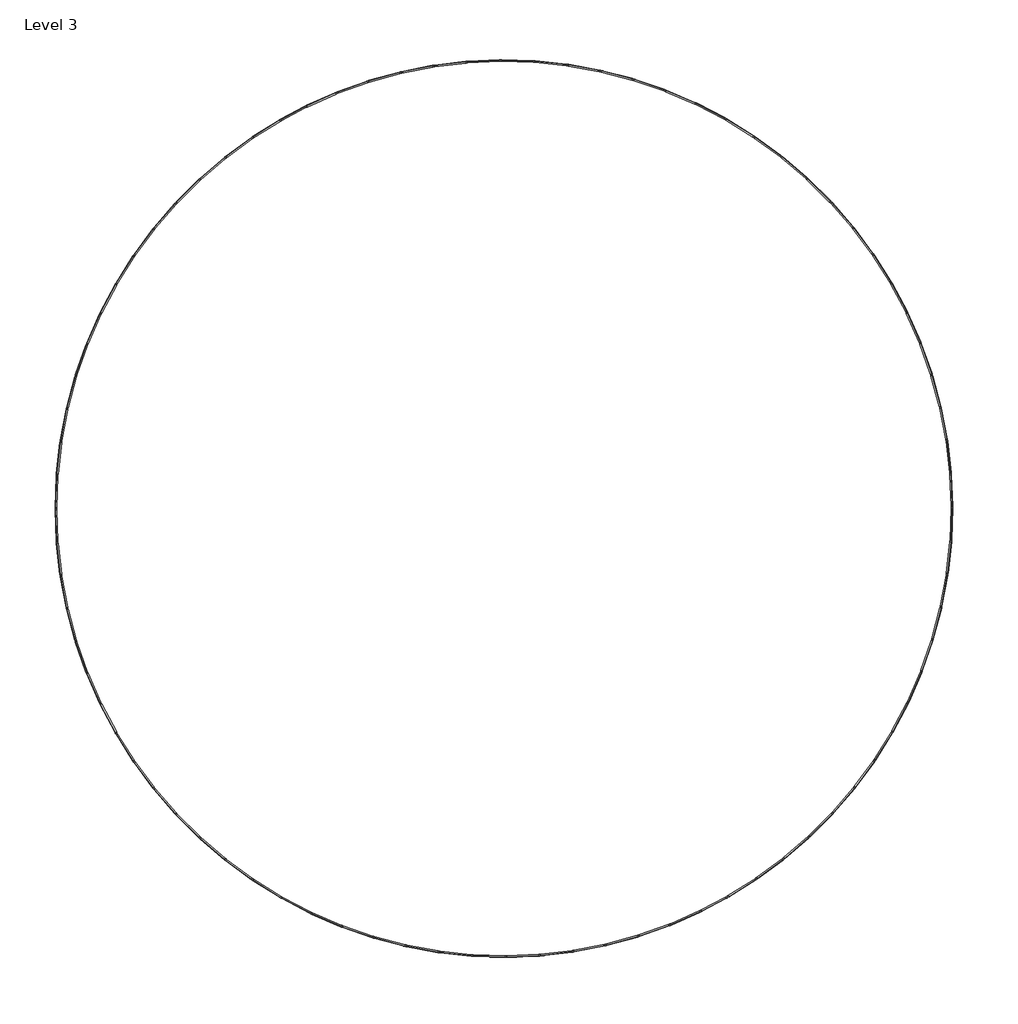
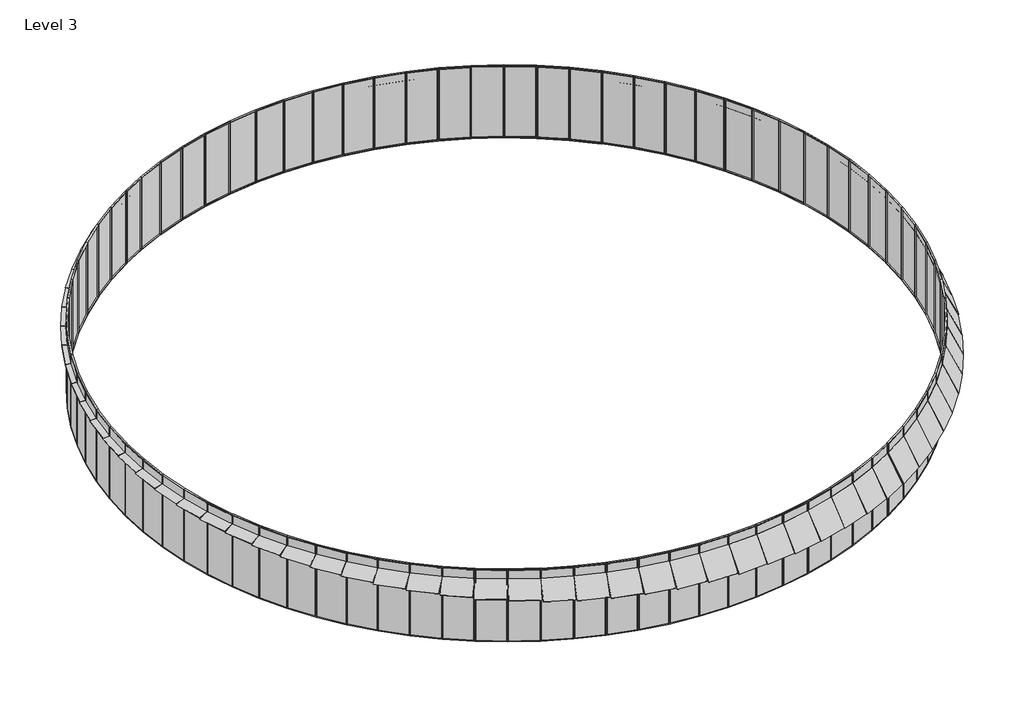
# One storey: 84 plates.
"""IFC4 building model written with IfcOpenShell, lengths in millimetres."""

from ifc_helpers import new_model, si_unit, origin, place, context, project, spatial, transform, mapped, element, save
from components import typical_panel_typical_panel_1dacabfa, typical_panel_typical_panel_de002282, typical_panel_typical_panel_c068772c, typical_panel_typical_panel_b4f8cd0d, typical_panel_typical_panel_24d31985, typical_panel_typical_panel_bf64ccab, typical_panel_typical_panel_7269d920, typical_panel_typical_panel_007911d2, typical_panel_typical_panel_4d8c99ed, typical_panel_typical_panel_fa7228e3, typical_panel_typical_panel_21f6f527, typical_panel_typical_panel_994178b1, typical_panel_typical_panel_321f3c24, typical_panel_typical_panel_c4bb10ae, typical_panel_typical_panel_636d6651, typical_panel_typical_panel_3eeb6f99, typical_panel_typical_panel_555c9846, typical_panel_typical_panel_89c6637b, typical_panel_typical_panel_d72680d6, typical_panel_typical_panel_a65719b3, typical_panel_typical_panel_fb959741, typical_panel_typical_panel_bf9a72a6, typical_panel_typical_panel_530a7cf6, typical_panel_typical_panel_7dcf532a, typical_panel_typical_panel_a58b40de, typical_panel_typical_panel_9cbe78d2, typical_panel_typical_panel_3d8b9d05, typical_panel_typical_panel_1fc3b25d, typical_panel_typical_panel_199775df, typical_panel_typical_panel_5af8f8b4, typical_panel_typical_panel_452a3de3, typical_panel_typical_panel_9333b02c, typical_panel_typical_panel_dc0afd6a, typical_panel_typical_panel_484bad6c, typical_panel_typical_panel_78da2cf4, typical_panel_typical_panel_ad1c7da8, typical_panel_typical_panel_823978b0, typical_panel_typical_panel_4a132dac, typical_panel_typical_panel_328596d2, typical_panel_typical_panel_e094c6e8, typical_panel_typical_panel_4f07c011, typical_panel_typical_panel_1149305a, typical_panel_typical_panel_529db082, typical_panel_typical_panel_4d45919f, typical_panel_typical_panel_7d76078b, typical_panel_typical_panel_77cb67d9, typical_panel_typical_panel_1d00d27b, typical_panel_typical_panel_c6367479, typical_panel_typical_panel_41a3be12, typical_panel_typical_panel_ce5b174f, typical_panel_typical_panel_92cceb4c, typical_panel_typical_panel_8b2101b3, typical_panel_typical_panel_25451a31, typical_panel_typical_panel_bbcebb09, typical_panel_typical_panel_16c89cbd, typical_panel_typical_panel_3222c149, typical_panel_typical_panel_2061968d, typical_panel_typical_panel_abac9c48, typical_panel_typical_panel_9d5c9c45, typical_panel_typical_panel_519964b2, typical_panel_typical_panel_5b56934d, typical_panel_typical_panel_f5345e9d, typical_panel_typical_panel_8e1d2641, typical_panel_typical_panel_2c4e3443, typical_panel_typical_panel_8a0cca83, typical_panel_typical_panel_c9221e3d, typical_panel_typical_panel_9318e441, typical_panel_typical_panel_39513247, typical_panel_typical_panel_b0a5b154, typical_panel_typical_panel_c39826dc

model = new_model("IFC4")

# Units and contexts
model_context = context("Model", 3, world=origin())
ifc_project = project(units=[si_unit("LENGTHUNIT", "METRE", prefix="MILLI")], contexts=[model_context])

# Site, building, storey
site = spatial("IfcSite", under=ifc_project)
building = spatial("IfcBuilding", under=site)
storey = spatial("IfcBuildingStorey", under=building, Name="Level 3", Elevation=8000.0)

# Plates
placement = place(None, origin())
typical_panel_typical_panel_shape = typical_panel_typical_panel_1dacabfa(model_context)
element("IfcPlate", 1, ObjectType="Typical Panel : Typical Panel", at=placement, inside=storey, context=model_context, shape_type="MappedRepresentation", body=[
    mapped(typical_panel_typical_panel_shape, transform((19852.5990247, 2304.7368536, 8000.0), x_axis=(-0.115317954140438, 0.9933286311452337, 0.0), y_axis=(-0.9933286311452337, -0.115317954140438, 0.0), z_axis=(0.0, 0.0, 1.0))),
])
typical_panel_typical_panel_2_shape = typical_panel_typical_panel_de002282(model_context)
element("IfcPlate", 2, ObjectType="Typical Panel : Typical Panel", at=placement, inside=storey, context=model_context, shape_type="MappedRepresentation", body=[
    mapped(typical_panel_typical_panel_2_shape, transform((19624.0299075, 3786.1524253, 8000.0), x_axis=(-0.18944086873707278, 0.9818921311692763, 0.0), y_axis=(-0.9818921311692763, -0.18944086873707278, 0.0), z_axis=(0.0, 0.0, 1.0))),
])
element("IfcPlate", 3, ObjectType="Typical Panel : Typical Panel", at=placement, inside=storey, context=model_context, shape_type="MappedRepresentation", body=[
    mapped(typical_panel_typical_panel_2_shape, transform((5275.71905, -19277.0404499, 8000.0), x_axis=(0.9645304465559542, 0.2639716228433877, 0.0), y_axis=(-0.2639716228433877, 0.9645304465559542, 0.0), z_axis=(0.0, 0.0, 1.0))),
])
typical_panel_typical_panel_3_shape = typical_panel_typical_panel_c068772c(model_context)
element("IfcPlate", 4, ObjectType="Typical Panel : Typical Panel", at=placement, inside=storey, context=model_context, shape_type="MappedRepresentation", body=[
    mapped(typical_panel_typical_panel_3_shape, transform((19285.0756222, 5246.2708896, 8000.0), x_axis=(-0.2624981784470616, 0.9649324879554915, 0.0), y_axis=(-0.9649324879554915, -0.2624981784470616, 0.0), z_axis=(0.0, 0.0, 1.0))),
])
typical_panel_typical_panel_4_shape = typical_panel_typical_panel_b4f8cd0d(model_context)
element("IfcPlate", 5, ObjectType="Typical Panel : Typical Panel", at=placement, inside=storey, context=model_context, shape_type="MappedRepresentation", body=[
    mapped(typical_panel_typical_panel_4_shape, transform((18837.6427864, 6676.8790802, 8000.0), x_axis=(-0.3340789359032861, 0.9425450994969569, 0.0), y_axis=(-0.9425450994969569, -0.3340789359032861, 0.0), z_axis=(0.0, 0.0, 1.0))),
])
typical_panel_typical_panel_5_shape = typical_panel_typical_panel_24d31985(model_context)
element("IfcPlate", 6, ObjectType="Typical Panel : Typical Panel", at=placement, inside=storey, context=model_context, shape_type="MappedRepresentation", body=[
    mapped(typical_panel_typical_panel_5_shape, transform((18284.24821, 8069.929826, 8000.0), x_axis=(-0.40378049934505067, 0.9148558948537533, 0.0), y_axis=(-0.9148558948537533, -0.40378049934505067, 0.0), z_axis=(0.0, 0.0, 1.0))),
])
typical_panel_typical_panel_6_shape = typical_panel_typical_panel_bf64ccab(model_context)
element("IfcPlate", 7, ObjectType="Typical Panel : Typical Panel", at=placement, inside=storey, context=model_context, shape_type="MappedRepresentation", body=[
    mapped(typical_panel_typical_panel_6_shape, transform((17628.0047373, 9417.5872165, 8000.0), x_axis=(-0.4712107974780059, 0.8820206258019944, 0.0), y_axis=(-0.8820206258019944, -0.4712107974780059, 0.0), z_axis=(0.0, 0.0, 1.0))),
])
typical_panel_typical_panel_7_shape = typical_panel_typical_panel_7269d920(model_context)
element("IfcPlate", 8, ObjectType="Typical Panel : Typical Panel", at=placement, inside=storey, context=model_context, shape_type="MappedRepresentation", body=[
    mapped(typical_panel_typical_panel_7_shape, transform((16872.6037381, 10712.2706789, 8000.0), x_axis=(-0.5359905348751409, 0.8442239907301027, 0.0), y_axis=(-0.8442239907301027, -0.5359905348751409, 0.0), z_axis=(0.0, 0.0, 1.0))),
])
typical_panel_typical_panel_8_shape = typical_panel_typical_panel_007911d2(model_context)
element("IfcPlate", 9, ObjectType="Typical Panel : Typical Panel", at=placement, inside=storey, context=model_context, shape_type="MappedRepresentation", body=[
    mapped(typical_panel_typical_panel_8_shape, transform((16022.2943428, 11946.6976187, 8000.0), x_axis=(-0.5977553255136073, 0.8016785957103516, 0.0), y_axis=(-0.8016785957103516, -0.5977553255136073, 0.0), z_axis=(0.0, 0.0, 1.0))),
])
typical_panel_typical_panel_9_shape = typical_panel_typical_panel_4d8c99ed(model_context)
element("IfcPlate", 10, ObjectType="Typical Panel : Typical Panel", at=placement, inside=storey, context=model_context, shape_type="MappedRepresentation", body=[
    mapped(typical_panel_typical_panel_9_shape, transform((14056.5892809, 14207.3853255, 8000.0), x_axis=(-0.7108692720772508, 0.7033241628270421, 0.0), y_axis=(-0.7033241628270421, -0.7108692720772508, 0.0), z_axis=(0.0, 0.0, 1.0))),
])
typical_panel_typical_panel_10_shape = typical_panel_typical_panel_fa7228e3(model_context)
element("IfcPlate", 11, ObjectType="Typical Panel : Typical Panel", at=placement, inside=storey, context=model_context, shape_type="MappedRepresentation", body=[
    mapped(typical_panel_typical_panel_10_shape, transform((11775.0557195, 16148.856393, 8000.0), x_axis=(-0.8080111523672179, 0.5891671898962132, 0.0), y_axis=(-0.5891671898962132, -0.8080111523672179, 0.0), z_axis=(0.0, 0.0, 1.0))),
])
typical_panel_typical_panel_11_shape = typical_panel_typical_panel_21f6f527(model_context)
element("IfcPlate", 12, ObjectType="Typical Panel : Typical Panel", at=placement, inside=storey, context=model_context, shape_type="MappedRepresentation", body=[
    mapped(typical_panel_typical_panel_11_shape, transform((10531.6260453, 16985.9457447, 8000.0), x_axis=(-0.8498950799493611, 0.5269519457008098, 0.0), y_axis=(-0.5269519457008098, -0.8498950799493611, 0.0), z_axis=(0.0, 0.0, 1.0))),
])
typical_panel_typical_panel_12_shape = typical_panel_typical_panel_994178b1(model_context)
element("IfcPlate", 13, ObjectType="Typical Panel : Typical Panel", at=placement, inside=storey, context=model_context, shape_type="MappedRepresentation", body=[
    mapped(typical_panel_typical_panel_12_shape, transform((7874.3730264, 18369.315432, 8000.0), x_axis=(-0.9191122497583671, 0.39399577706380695, 0.0), y_axis=(-0.39399577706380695, -0.9191122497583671, 0.0), z_axis=(0.0, 0.0, 1.0))),
])
typical_panel_typical_panel_13_shape = typical_panel_typical_panel_321f3c24(model_context)
element("IfcPlate", 14, ObjectType="Typical Panel : Typical Panel", at=placement, inside=storey, context=model_context, shape_type="MappedRepresentation", body=[
    mapped(typical_panel_typical_panel_13_shape, transform((6475.4967301, 18907.8143131, 8000.0), x_axis=(-0.9460561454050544, 0.32400273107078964, 0.0), y_axis=(-0.32400273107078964, -0.9460561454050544, 0.0), z_axis=(0.0, 0.0, 1.0))),
])
typical_panel_typical_panel_14_shape = typical_panel_typical_panel_c4bb10ae(model_context)
element("IfcPlate", 15, ObjectType="Typical Panel : Typical Panel", at=placement, inside=storey, context=model_context, shape_type="MappedRepresentation", body=[
    mapped(typical_panel_typical_panel_14_shape, transform((5040.1957646, 19339.9567387, 8000.0), x_axis=(-0.967678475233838, 0.25218716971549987, 0.0), y_axis=(-0.25218716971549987, -0.967678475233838, 0.0), z_axis=(0.0, 0.0, 1.0))),
])
typical_panel_typical_panel_15_shape = typical_panel_typical_panel_636d6651(model_context)
element("IfcPlate", 16, ObjectType="Typical Panel : Typical Panel", at=placement, inside=storey, context=model_context, shape_type="MappedRepresentation", body=[
    mapped(typical_panel_typical_panel_15_shape, transform((3576.5436979, 19663.3119076, 8000.0), x_axis=(-0.9838576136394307, 0.178953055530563, 0.0), y_axis=(-0.178953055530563, -0.9838576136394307, 0.0), z_axis=(0.0, 0.0, 1.0))),
])
typical_panel_typical_panel_16_shape = typical_panel_typical_panel_3eeb6f99(model_context)
element("IfcPlate", 17, ObjectType="Typical Panel : Typical Panel", at=placement, inside=storey, context=model_context, shape_type="MappedRepresentation", body=[
    mapped(typical_panel_typical_panel_16_shape, transform((2092.773573, 19876.0609471, 8000.0), x_axis=(-0.9945025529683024, 0.10471233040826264, 0.0), y_axis=(-0.10471233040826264, -0.9945025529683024, 0.0), z_axis=(0.0, 0.0, 1.0))),
])
typical_panel_typical_panel_17_shape = typical_panel_typical_panel_555c9846(model_context)
element("IfcPlate", 18, ObjectType="Typical Panel : Typical Panel", at=placement, inside=storey, context=model_context, shape_type="MappedRepresentation", body=[
    mapped(typical_panel_typical_panel_17_shape, transform((597.2315967, 19977.0071437, 8000.0), x_axis=(-0.9995534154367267, 0.02988259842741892, 0.0), y_axis=(-0.02988259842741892, -0.9995534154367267, 0.0), z_axis=(0.0, 0.0, 1.0))),
])
typical_panel_typical_panel_18_shape = typical_panel_typical_panel_89c6637b(model_context)
element("IfcPlate", 19, ObjectType="Typical Panel : Typical Panel", at=placement, inside=storey, context=model_context, shape_type="MappedRepresentation", body=[
    mapped(typical_panel_typical_panel_18_shape, transform((-901.6698074, 19965.5826752, 8000.0), x_axis=(-0.9989817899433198, -0.04511522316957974, 0.0), y_axis=(0.04511522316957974, -0.9989817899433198, 0.0), z_axis=(0.0, 0.0, 1.0))),
])
typical_panel_typical_panel_19_shape = typical_panel_typical_panel_d72680d6(model_context)
element("IfcPlate", 20, ObjectType="Typical Panel : Typical Panel", at=placement, inside=storey, context=model_context, shape_type="MappedRepresentation", body=[
    mapped(typical_panel_typical_panel_19_shape, transform((-2395.4993187, 19841.8518041, 8000.0), x_axis=(-0.9927908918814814, -0.11985927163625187, 0.0), y_axis=(0.11985927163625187, -0.9927908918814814, 0.0), z_axis=(0.0, 0.0, 1.0))),
])
typical_panel_typical_panel_20_shape = typical_panel_typical_panel_a65719b3(model_context)
element("IfcPlate", 21, ObjectType="Typical Panel : Typical Panel", at=placement, inside=storey, context=model_context, shape_type="MappedRepresentation", body=[
    mapped(typical_panel_typical_panel_20_shape, transform((-3875.8541464, 19606.5105165, 8000.0), x_axis=(-0.9810155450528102, -0.19392911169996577, 0.0), y_axis=(0.19392911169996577, -0.9810155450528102, 0.0), z_axis=(0.0, 0.0, 1.0))),
])
typical_panel_typical_panel_21_shape = typical_panel_typical_panel_fb959741(model_context)
element("IfcPlate", 22, ObjectType="Typical Panel : Typical Panel", at=placement, inside=storey, context=model_context, shape_type="MappedRepresentation", body=[
    mapped(typical_panel_typical_panel_21_shape, transform((-19635.470495, -3726.3653123, 8000.0), x_axis=(0.1864494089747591, -0.9824645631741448, 0.0), y_axis=(0.9824645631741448, 0.1864494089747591, 0.0), z_axis=(0.0, 0.0, 1.0))),
])
typical_panel_typical_panel_22_shape = typical_panel_typical_panel_bf9a72a6(model_context)
element("IfcPlate", 23, ObjectType="Typical Panel : Typical Panel", at=placement, inside=storey, context=model_context, shape_type="MappedRepresentation", body=[
    mapped(typical_panel_typical_panel_22_shape, transform((-6762.9544017, 18806.9122336, 8000.0), x_axis=(-0.9410074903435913, -0.3383857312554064, 0.0), y_axis=(0.3383857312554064, -0.9410074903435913, 0.0), z_axis=(0.0, 0.0, 1.0))),
])
typical_panel_typical_panel_23_shape = typical_panel_typical_panel_530a7cf6(model_context)
element("IfcPlate", 24, ObjectType="Typical Panel : Typical Panel", at=placement, inside=storey, context=model_context, shape_type="MappedRepresentation", body=[
    mapped(typical_panel_typical_panel_23_shape, transform((-19971.8727801, -749.5316252, 8000.0), x_axis=(0.0375029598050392, -0.9992965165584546, 0.0), y_axis=(0.9992965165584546, 0.0375029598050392, 0.0), z_axis=(0.0, 0.0, 1.0))),
])
typical_panel_typical_panel_24_shape = typical_panel_typical_panel_7dcf532a(model_context)
element("IfcPlate", 25, ObjectType="Typical Panel : Typical Panel", at=placement, inside=storey, context=model_context, shape_type="MappedRepresentation", body=[
    mapped(typical_panel_typical_panel_24_shape, transform((-19971.8772198, 749.4133163, 8000.0), x_axis=(-0.03749704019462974, -0.9992967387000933, 0.0), y_axis=(0.9992967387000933, -0.03749704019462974, 0.0), z_axis=(0.0, 0.0, 1.0))),
])
typical_panel_typical_panel_25_shape = typical_panel_typical_panel_a58b40de(model_context)
element("IfcPlate", 26, ObjectType="Typical Panel : Typical Panel", at=placement, inside=storey, context=model_context, shape_type="MappedRepresentation", body=[
    mapped(typical_panel_typical_panel_25_shape, transform((-11824.2816548, 16112.8477727, 8000.0), x_axis=(-0.8062094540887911, -0.5916302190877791, 0.0), y_axis=(0.5916302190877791, -0.8062094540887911, 0.0), z_axis=(0.0, 0.0, 1.0))),
])
element("IfcPlate", 27, ObjectType="Typical Panel : Typical Panel", at=placement, inside=storey, context=model_context, shape_type="MappedRepresentation", body=[
    mapped(typical_panel_typical_panel_25_shape, transform((-19635.4925688, 3726.248996, 8000.0), x_axis=(-0.18644358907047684, -0.9824656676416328, 0.0), y_axis=(0.9824656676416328, -0.18644358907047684, 0.0), z_axis=(0.0, 0.0, 1.0))),
])
typical_panel_typical_panel_26_shape = typical_panel_typical_panel_9cbe78d2(model_context)
element("IfcPlate", 28, ObjectType="Typical Panel : Typical Panel", at=placement, inside=storey, context=model_context, shape_type="MappedRepresentation", body=[
    mapped(typical_panel_typical_panel_26_shape, transform((-12998.6394457, 15181.3330297, 8000.0), x_axis=(-0.7596009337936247, -0.6503894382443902, 0.0), y_axis=(0.6503894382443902, -0.7596009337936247, 0.0), z_axis=(0.0, 0.0, 1.0))),
])
element("IfcPlate", 29, ObjectType="Typical Panel : Typical Panel", at=placement, inside=storey, context=model_context, shape_type="MappedRepresentation", body=[
    mapped(typical_panel_typical_panel_26_shape, transform((-19300.9956418, 5187.3950337, 8000.0), x_axis=(-0.2595523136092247, -0.9657290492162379, 0.0), y_axis=(0.9657290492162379, -0.2595523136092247, 0.0), z_axis=(0.0, 0.0, 1.0))),
])
typical_panel_typical_panel_27_shape = typical_panel_typical_panel_3d8b9d05(model_context)
element("IfcPlate", 30, ObjectType="Typical Panel : Typical Panel", at=placement, inside=storey, context=model_context, shape_type="MappedRepresentation", body=[
    mapped(typical_panel_typical_panel_27_shape, transform((-14099.8798898, 14164.4232885, 8000.0), x_axis=(-0.7087196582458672, -0.7054902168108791, 0.0), y_axis=(0.7054902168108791, -0.7087196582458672, 0.0), z_axis=(0.0, 0.0, 1.0))),
])
element("IfcPlate", 31, ObjectType="Typical Panel : Typical Panel", at=placement, inside=storey, context=model_context, shape_type="MappedRepresentation", body=[
    mapped(typical_panel_typical_panel_27_shape, transform((-18857.9306143, 6619.3619743, 8000.0), x_axis=(-0.33120105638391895, -0.9435602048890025, 0.0), y_axis=(0.9435602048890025, -0.33120105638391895, 0.0), z_axis=(0.0, 0.0, 1.0))),
])
typical_panel_typical_panel_28_shape = typical_panel_typical_panel_1fc3b25d(model_context)
element("IfcPlate", 32, ObjectType="Typical Panel : Typical Panel", at=placement, inside=storey, context=model_context, shape_type="MappedRepresentation", body=[
    mapped(typical_panel_typical_panel_28_shape, transform((-15121.8085094, 13067.8386662, 8000.0), x_axis=(-0.6538518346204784, -0.7566226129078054, 0.0), y_axis=(0.7566226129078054, -0.6538518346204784, 0.0), z_axis=(0.0, 0.0, 1.0))),
])
element("IfcPlate", 33, ObjectType="Typical Panel : Typical Panel", at=placement, inside=storey, context=model_context, shape_type="MappedRepresentation", body=[
    mapped(typical_panel_typical_panel_28_shape, transform((-18308.7897271, 8014.0950037, 8000.0), x_axis=(-0.40098679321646, -0.9160838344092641, 0.0), y_axis=(0.9160838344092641, -0.40098679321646, 0.0), z_axis=(0.0, 0.0, 1.0))),
])
typical_panel_typical_panel_29_shape = typical_panel_typical_panel_199775df(model_context)
element("IfcPlate", 34, ObjectType="Typical Panel : Typical Panel", at=placement, inside=storey, context=model_context, shape_type="MappedRepresentation", body=[
    mapped(typical_panel_typical_panel_29_shape, transform((-16058.6769562, 11897.7474514, 8000.0), x_axis=(-0.5953060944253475, -0.8034990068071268, 0.0), y_axis=(0.8034990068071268, -0.5953060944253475, 0.0), z_axis=(0.0, 0.0, 1.0))),
])
element("IfcPlate", 35, ObjectType="Typical Panel : Typical Panel", at=placement, inside=storey, context=model_context, shape_type="MappedRepresentation", body=[
    mapped(typical_panel_typical_panel_29_shape, transform((-16905.2153451, 10660.7314072, 8000.0), x_axis=(-0.5334117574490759, -0.8458557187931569, 0.0), y_axis=(0.8458557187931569, -0.5334117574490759, 0.0), z_axis=(0.0, 0.0, 1.0))),
])
element("IfcPlate", 36, ObjectType="Typical Panel : Typical Panel", at=placement, inside=storey, context=model_context, shape_type="MappedRepresentation", body=[
    mapped(typical_panel_typical_panel_29_shape, transform((-17656.6618977, 9363.7487488, 8000.0), x_axis=(-0.4685169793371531, -0.883454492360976, 0.0), y_axis=(0.883454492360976, -0.4685169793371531, 0.0), z_axis=(0.0, 0.0, 1.0))),
])
typical_panel_typical_panel_30_shape = typical_panel_typical_panel_5af8f8b4(model_context)
element("IfcPlate", 37, ObjectType="Typical Panel : Typical Panel", at=placement, inside=storey, context=model_context, shape_type="MappedRepresentation", body=[
    mapped(typical_panel_typical_panel_30_shape, transform((-19859.5398501, 2244.1428078, 8000.0), x_axis=(-0.11228611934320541, -0.993675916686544, 0.0), y_axis=(0.993675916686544, -0.11228611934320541, 0.0), z_axis=(0.0, 0.0, 1.0))),
])
typical_panel_typical_panel_31_shape = typical_panel_typical_panel_452a3de3(model_context)
element("IfcPlate", 38, ObjectType="Typical Panel : Typical Panel", at=placement, inside=storey, context=model_context, shape_type="MappedRepresentation", body=[
    mapped(typical_panel_typical_panel_31_shape, transform((-9419.1048805, 17630.8455487, 8000.0), x_axis=(-0.8820206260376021, -0.47121079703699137, 0.0), y_axis=(0.47121079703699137, -0.8820206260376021, 0.0), z_axis=(0.0, 0.0, 1.0))),
])
typical_panel_typical_panel_32_shape = typical_panel_typical_panel_9333b02c(model_context)
element("IfcPlate", 39, ObjectType="Typical Panel : Typical Panel", at=placement, inside=storey, context=model_context, shape_type="MappedRepresentation", body=[
    mapped(typical_panel_typical_panel_32_shape, transform((-19859.526556, -2244.2604512, 8000.0), x_axis=(0.11229200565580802, -0.9936752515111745, 0.0), y_axis=(0.9936752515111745, 0.11229200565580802, 0.0), z_axis=(0.0, 0.0, 1.0))),
])
typical_panel_typical_panel_33_shape = typical_panel_typical_panel_dc0afd6a(model_context)
element("IfcPlate", 40, ObjectType="Typical Panel : Typical Panel", at=placement, inside=storey, context=model_context, shape_type="MappedRepresentation", body=[
    mapped(typical_panel_typical_panel_33_shape, transform((-19300.9649125, -5187.5093684, 8000.0), x_axis=(0.2595580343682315, -0.9657275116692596, 0.0), y_axis=(0.9657275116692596, 0.2595580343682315, 0.0), z_axis=(0.0, 0.0, 1.0))),
])
typical_panel_typical_panel_34_shape = typical_panel_typical_panel_484bad6c(model_context)
element("IfcPlate", 41, ObjectType="Typical Panel : Typical Panel", at=placement, inside=storey, context=model_context, shape_type="MappedRepresentation", body=[
    mapped(typical_panel_typical_panel_34_shape, transform((-18857.8914023, -6619.4736843, 8000.0), x_axis=(0.3312066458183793, -0.9435582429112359, 0.0), y_axis=(0.9435582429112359, 0.3312066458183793, 0.0), z_axis=(0.0, 0.0, 1.0))),
])
typical_panel_typical_panel_35_shape = typical_panel_typical_panel_78da2cf4(model_context)
element("IfcPlate", 42, ObjectType="Typical Panel : Typical Panel", at=placement, inside=storey, context=model_context, shape_type="MappedRepresentation", body=[
    mapped(typical_panel_typical_panel_35_shape, transform((-18308.7422531, -8014.2034608, 8000.0), x_axis=(0.4009922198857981, -0.9160814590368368, 0.0), y_axis=(0.9160814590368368, 0.4009922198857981, 0.0), z_axis=(0.0, 0.0, 1.0))),
])
typical_panel_typical_panel_36_shape = typical_panel_typical_panel_ad1c7da8(model_context)
element("IfcPlate", 43, ObjectType="Typical Panel : Typical Panel", at=placement, inside=storey, context=model_context, shape_type="MappedRepresentation", body=[
    mapped(typical_panel_typical_panel_36_shape, transform((-17656.6064286, -9363.8533428, 8000.0), x_axis=(0.4685222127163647, -0.8834517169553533, 0.0), y_axis=(0.8834517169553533, 0.4685222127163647, 0.0), z_axis=(0.0, 0.0, 1.0))),
])
typical_panel_typical_panel_37_shape = typical_panel_typical_panel_823978b0(model_context)
element("IfcPlate", 44, ObjectType="Typical Panel : Typical Panel", at=placement, inside=storey, context=model_context, shape_type="MappedRepresentation", body=[
    mapped(typical_panel_typical_panel_37_shape, transform((-16905.152193, -10660.8315497, 8000.0), x_axis=(0.5334167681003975, -0.8458525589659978, 0.0), y_axis=(0.8458525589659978, 0.5334167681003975, 0.0), z_axis=(0.0, 0.0, 1.0))),
])
typical_panel_typical_panel_38_shape = typical_panel_typical_panel_4a132dac(model_context)
element("IfcPlate", 45, ObjectType="Typical Panel : Typical Panel", at=placement, inside=storey, context=model_context, shape_type="MappedRepresentation", body=[
    mapped(typical_panel_typical_panel_38_shape, transform((-16058.6064763, -11897.8425792, 8000.0), x_axis=(0.5953108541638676, -0.8034954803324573, 0.0), y_axis=(0.8034954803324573, 0.5953108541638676, 0.0), z_axis=(0.0, 0.0, 1.0))),
])
typical_panel_typical_panel_39_shape = typical_panel_typical_panel_328596d2(model_context)
element("IfcPlate", 46, ObjectType="Typical Panel : Typical Panel", at=placement, inside=storey, context=model_context, shape_type="MappedRepresentation", body=[
    mapped(typical_panel_typical_panel_39_shape, transform((-15121.7310982, -13067.9282442, 8000.0), x_axis=(0.6538563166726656, -0.7566187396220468, 0.0), y_axis=(0.7566187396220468, 0.6538563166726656, 0.0), z_axis=(0.0, 0.0, 1.0))),
])
typical_panel_typical_panel_40_shape = typical_panel_typical_panel_e094c6e8(model_context)
element("IfcPlate", 47, ObjectType="Typical Panel : Typical Panel", at=placement, inside=storey, context=model_context, shape_type="MappedRepresentation", body=[
    mapped(typical_panel_typical_panel_40_shape, transform((-14099.7959826, -14164.5068128, 8000.0), x_axis=(0.7087238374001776, -0.7054860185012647, 0.0), y_axis=(0.7054860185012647, 0.7087238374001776, 0.0), z_axis=(0.0, 0.0, 1.0))),
])
typical_panel_typical_panel_41_shape = typical_panel_typical_panel_4f07c011(model_context)
element("IfcPlate", 48, ObjectType="Typical Panel : Typical Panel", at=placement, inside=storey, context=model_context, shape_type="MappedRepresentation", body=[
    mapped(typical_panel_typical_panel_41_shape, transform((-12998.5495147, -15181.4100305, 8000.0), x_axis=(0.7596047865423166, -0.6503849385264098, 0.0), y_axis=(0.6503849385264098, 0.7596047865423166, 0.0), z_axis=(0.0, 0.0, 1.0))),
])
typical_panel_typical_panel_42_shape = typical_panel_typical_panel_1149305a(model_context)
element("IfcPlate", 49, ObjectType="Typical Panel : Typical Panel", at=placement, inside=storey, context=model_context, shape_type="MappedRepresentation", body=[
    mapped(typical_panel_typical_panel_42_shape, transform((-11824.1862057, -16112.9178169, 8000.0), x_axis=(0.8062129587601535, -0.5916254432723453, 0.0), y_axis=(0.5916254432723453, 0.8062129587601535, 0.0), z_axis=(0.0, 0.0, 1.0))),
])
typical_panel_typical_panel_43_shape = typical_panel_typical_panel_529db082(model_context)
element("IfcPlate", 50, ObjectType="Typical Panel : Typical Panel", at=placement, inside=storey, context=model_context, shape_type="MappedRepresentation", body=[
    mapped(typical_panel_typical_panel_43_shape, transform((-10583.3118493, -16953.7904405, 8000.0), x_axis=(0.8482861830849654, -0.5295380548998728, 0.0), y_axis=(0.5295380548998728, 0.8482861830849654, 0.0), z_axis=(0.0, 0.0, 1.0))),
])
typical_panel_typical_panel_44_shape = typical_panel_typical_panel_4d45919f(model_context)
element("IfcPlate", 51, ObjectType="Typical Panel : Typical Panel", at=placement, inside=storey, context=model_context, shape_type="MappedRepresentation", body=[
    mapped(typical_panel_typical_panel_44_shape, transform((-9282.9063638, -17699.2979929, 8000.0), x_axis=(0.885587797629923, -0.46447201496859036, 0.0), y_axis=(0.46447201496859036, 0.885587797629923, 0.0), z_axis=(0.0, 0.0, 1.0))),
])
typical_panel_typical_panel_45_shape = typical_panel_typical_panel_7d76078b(model_context)
element("IfcPlate", 52, ObjectType="Typical Panel : Typical Panel", at=placement, inside=storey, context=model_context, shape_type="MappedRepresentation", body=[
    mapped(typical_panel_typical_panel_45_shape, transform((-7930.2845299, -18345.2469941, 8000.0), x_axis=(0.9179079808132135, -0.39679331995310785, 0.0), y_axis=(0.39679331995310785, 0.9179079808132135, 0.0), z_axis=(0.0, 0.0, 1.0))),
])
typical_panel_typical_panel_46_shape = typical_panel_typical_panel_77cb67d9(model_context)
element("IfcPlate", 53, ObjectType="Typical Panel : Typical Panel", at=placement, inside=storey, context=model_context, shape_type="MappedRepresentation", body=[
    mapped(typical_panel_typical_panel_46_shape, transform((-6533.0548456, -18888.0039809, 8000.0), x_axis=(0.945064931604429, -0.32688266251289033, 0.0), y_axis=(0.32688266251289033, 0.945064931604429, 0.0), z_axis=(0.0, 0.0, 1.0))),
])
typical_panel_typical_panel_47_shape = typical_panel_typical_panel_1d00d27b(model_context)
element("IfcPlate", 54, ObjectType="Typical Panel : Typical Panel", at=placement, inside=storey, context=model_context, shape_type="MappedRepresentation", body=[
    mapped(typical_panel_typical_panel_47_shape, transform((-5099.0767278, -19324.5159454, 8000.0), x_axis=(0.9669058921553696, -0.2551332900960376, 0.0), y_axis=(0.2551332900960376, 0.9669058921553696, 0.0), z_axis=(0.0, 0.0, 1.0))),
])
typical_panel_typical_panel_48_shape = typical_panel_typical_panel_c6367479(model_context)
element("IfcPlate", 55, ObjectType="Typical Panel : Typical Panel", at=placement, inside=storey, context=model_context, shape_type="MappedRepresentation", body=[
    mapped(typical_panel_typical_panel_48_shape, transform((-3636.4163034, -19652.3275077, 8000.0), x_axis=(0.9833080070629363, -0.18194879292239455, 0.0), y_axis=(0.18194879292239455, 0.9833080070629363, 0.0), z_axis=(0.0, 0.0, 1.0))),
])
typical_panel_typical_panel_49_shape = typical_panel_typical_panel_41a3be12(model_context)
element("IfcPlate", 56, ObjectType="Typical Panel : Typical Panel", at=placement, inside=storey, context=model_context, shape_type="MappedRepresentation", body=[
    mapped(typical_panel_typical_panel_49_shape, transform((-2153.3010373, -19869.5947277, 8000.0), x_axis=(0.9941790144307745, -0.10774083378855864, 0.0), y_axis=(0.10774083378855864, 0.9941790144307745, 0.0), z_axis=(0.0, 0.0, 1.0))),
])
typical_panel_typical_panel_50_shape = typical_panel_typical_panel_ce5b174f(model_context)
element("IfcPlate", 57, ObjectType="Typical Panel : Typical Panel", at=placement, inside=storey, context=model_context, shape_type="MappedRepresentation", body=[
    mapped(typical_panel_typical_panel_50_shape, transform((-658.0734528, -19975.0954774, 8000.0), x_axis=(0.9994577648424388, -0.03292683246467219, 0.0), y_axis=(0.03292683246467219, 0.9994577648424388, 0.0), z_axis=(0.0, 0.0, 1.0))),
])
typical_panel_typical_panel_51_shape = typical_panel_typical_panel_92cceb4c(model_context)
element("IfcPlate", 58, ObjectType="Typical Panel : Typical Panel", at=placement, inside=storey, context=model_context, shape_type="MappedRepresentation", body=[
    mapped(typical_panel_typical_panel_51_shape, transform((840.8557948, -19968.236315, 8000.0), x_axis=(0.9991145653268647, 0.04207238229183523, 0.0), y_axis=(-0.04207238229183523, 0.9991145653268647, 0.0), z_axis=(0.0, 0.0, 1.0))),
])
typical_panel_typical_panel_52_shape = typical_panel_typical_panel_8b2101b3(model_context)
element("IfcPlate", 59, ObjectType="Typical Panel : Typical Panel", at=placement, inside=storey, context=model_context, shape_type="MappedRepresentation", body=[
    mapped(typical_panel_typical_panel_52_shape, transform((2335.0552286, -19849.0558234, 8000.0), x_axis=(0.9931513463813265, 0.1168349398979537, 0.0), y_axis=(-0.1168349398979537, 0.9931513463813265, 0.0), z_axis=(0.0, 0.0, 1.0))),
])
typical_panel_typical_panel_53_shape = typical_panel_typical_panel_25451a31(model_context)
element("IfcPlate", 60, ObjectType="Typical Panel : Typical Panel", at=placement, inside=storey, context=model_context, shape_type="MappedRepresentation", body=[
    mapped(typical_panel_typical_panel_53_shape, transform((3816.1199767, -19618.2243927, 8000.0), x_axis=(0.9816016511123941, 0.19094030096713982, 0.0), y_axis=(-0.19094030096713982, 0.9816016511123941, 0.0), z_axis=(0.0, 0.0, 1.0))),
])
typical_panel_typical_panel_54_shape = typical_panel_typical_panel_bbcebb09(model_context)
element("IfcPlate", 61, ObjectType="Typical Panel : Typical Panel", at=placement, inside=storey, context=model_context, shape_type="MappedRepresentation", body=[
    mapped(typical_panel_typical_panel_54_shape, transform((6705.6422036, -18827.4231545, 8000.0), x_axis=(0.9420337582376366, 0.335518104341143, 0.0), y_axis=(-0.335518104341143, 0.9420337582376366, 0.0), z_axis=(0.0, 0.0, 1.0))),
])
typical_panel_typical_panel_55_shape = typical_panel_typical_panel_16c89cbd(model_context)
element("IfcPlate", 62, ObjectType="Typical Panel : Typical Panel", at=placement, inside=storey, context=model_context, shape_type="MappedRepresentation", body=[
    mapped(typical_panel_typical_panel_55_shape, transform((19969.4972724, 810.357137, 8000.0), x_axis=(-0.04054637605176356, 0.9991776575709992, 0.0), y_axis=(-0.9991776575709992, -0.04054637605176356, 0.0), z_axis=(0.0, 0.0, 1.0))),
])
element("IfcPlate", 63, ObjectType="Typical Panel : Typical Panel", at=placement, inside=storey, context=model_context, shape_type="MappedRepresentation", body=[
    mapped(typical_panel_typical_panel_55_shape, transform((8097.8461198, -18271.9016038, 8000.0), x_axis=(0.9142381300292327, 0.4051772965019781, 0.0), y_axis=(-0.4051772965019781, 0.9142381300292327, 0.0), z_axis=(0.0, 0.0, 1.0))),
])
typical_panel_typical_panel_56_shape = typical_panel_typical_panel_3222c149(model_context)
element("IfcPlate", 64, ObjectType="Typical Panel : Typical Panel", at=placement, inside=storey, context=model_context, shape_type="MappedRepresentation", body=[
    mapped(typical_panel_typical_panel_56_shape, transform((19974.0670978, -688.5808384, 8000.0), x_axis=(0.03445327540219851, 0.9994063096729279, 0.0), y_axis=(-0.9994063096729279, 0.03445327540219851, 0.0), z_axis=(0.0, 0.0, 1.0))),
])
typical_panel_typical_panel_57_shape = typical_panel_typical_panel_2061968d(model_context)
element("IfcPlate", 65, ObjectType="Typical Panel : Typical Panel", at=placement, inside=storey, context=model_context, shape_type="MappedRepresentation", body=[
    mapped(typical_panel_typical_panel_57_shape, transform((11873.30224, -16076.7594346, 8000.0), x_axis=(0.8044037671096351, 0.5940829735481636, 0.0), y_axis=(-0.5940829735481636, 0.8044037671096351, 0.0), z_axis=(0.0, 0.0, 1.0))),
])
element("IfcPlate", 66, ObjectType="Typical Panel : Typical Panel", at=placement, inside=storey, context=model_context, shape_type="MappedRepresentation", body=[
    mapped(typical_panel_typical_panel_57_shape, transform((19646.7506532, -3666.4272486, 8000.0), x_axis=(0.1834503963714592, 0.9830289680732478, 0.0), y_axis=(-0.9830289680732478, 0.1834503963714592, 0.0), z_axis=(0.0, 0.0, 1.0))),
])
typical_panel_typical_panel_58_shape = typical_panel_typical_panel_abac9c48(model_context)
element("IfcPlate", 67, ObjectType="Typical Panel : Typical Panel", at=placement, inside=storey, context=model_context, shape_type="MappedRepresentation", body=[
    mapped(typical_panel_typical_panel_58_shape, transform((13044.8174389, -15141.6722321, 8000.0), x_axis=(0.7576164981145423, 0.6526999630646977, 0.0), y_axis=(-0.6526999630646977, 0.7576164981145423, 0.0), z_axis=(0.0, 0.0, 1.0))),
])
element("IfcPlate", 68, ObjectType="Typical Panel : Typical Panel", at=placement, inside=storey, context=model_context, shape_type="MappedRepresentation", body=[
    mapped(typical_panel_typical_panel_58_shape, transform((19316.7055381, -5128.5852974, 8000.0), x_axis=(0.2566097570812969, 0.9665150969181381, 0.0), y_axis=(-0.9665150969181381, 0.2566097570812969, 0.0), z_axis=(0.0, 0.0, 1.0))),
])
typical_panel_typical_panel_59_shape = typical_panel_typical_panel_9d5c9c45(model_context)
element("IfcPlate", 69, ObjectType="Typical Panel : Typical Panel", at=placement, inside=storey, context=model_context, shape_type="MappedRepresentation", body=[
    mapped(typical_panel_typical_panel_59_shape, transform((14142.9555398, -14121.4131233, 8000.0), x_axis=(0.706567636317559, 0.7076455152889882, 0.0), y_axis=(-0.7076455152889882, 0.706567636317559, 0.0), z_axis=(0.0, 0.0, 1.0))),
])
element("IfcPlate", 70, ObjectType="Typical Panel : Typical Panel", at=placement, inside=storey, context=model_context, shape_type="MappedRepresentation", body=[
    mapped(typical_panel_typical_panel_59_shape, transform((18878.0039544, -6561.8950538, 8000.0), x_axis=(0.32832568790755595, 0.9445645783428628, 0.0), y_axis=(-0.9445645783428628, 0.32832568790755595, 0.0), z_axis=(0.0, 0.0, 1.0))),
])
typical_panel_typical_panel_60_shape = typical_panel_typical_panel_519964b2(model_context)
element("IfcPlate", 71, ObjectType="Typical Panel : Typical Panel", at=placement, inside=storey, context=model_context, shape_type="MappedRepresentation", body=[
    mapped(typical_panel_typical_panel_60_shape, transform((15161.5395157, -13021.7210658, 8000.0), x_axis=(0.651544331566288, 0.7586105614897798, 0.0), y_axis=(-0.7586105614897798, 0.651544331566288, 0.0), z_axis=(0.0, 0.0, 1.0))),
])
element("IfcPlate", 72, ObjectType="Typical Panel : Typical Panel", at=placement, inside=storey, context=model_context, shape_type="MappedRepresentation", body=[
    mapped(typical_panel_typical_panel_60_shape, transform((18333.1135984, -7958.2941506, 8000.0), x_axis=(0.39819478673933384, 0.9173008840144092, 0.0), y_axis=(-0.9173008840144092, 0.39819478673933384, 0.0), z_axis=(0.0, 0.0, 1.0))),
])
typical_panel_typical_panel_61_shape = typical_panel_typical_panel_5b56934d(model_context)
element("IfcPlate", 73, ObjectType="Typical Panel : Typical Panel", at=placement, inside=storey, context=model_context, shape_type="MappedRepresentation", body=[
    mapped(typical_panel_typical_panel_61_shape, transform((16094.8398318, -11848.7818272, 8000.0), x_axis=(0.5928560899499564, 0.8053084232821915, 0.0), y_axis=(-0.8053084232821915, 0.5928560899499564, 0.0), z_axis=(0.0, 0.0, 1.0))),
])
element("IfcPlate", 74, ObjectType="Typical Panel : Typical Panel", at=placement, inside=storey, context=model_context, shape_type="MappedRepresentation", body=[
    mapped(typical_panel_typical_panel_61_shape, transform((16937.6066739, -10609.1931908, 8000.0), x_axis=(0.5308330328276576, 0.84747642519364, 0.0), y_axis=(-0.84747642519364, 0.5308330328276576, 0.0), z_axis=(0.0, 0.0, 1.0))),
])
element("IfcPlate", 75, ObjectType="Typical Panel : Typical Panel", at=placement, inside=storey, context=model_context, shape_type="MappedRepresentation", body=[
    mapped(typical_panel_typical_panel_61_shape, transform((17685.0994784, -9309.9278428, 8000.0), x_axis=(0.46582403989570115, 0.8848773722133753, 0.0), y_axis=(-0.8848773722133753, 0.46582403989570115, 0.0), z_axis=(0.0, 0.0, 1.0))),
])
typical_panel_typical_panel_62_shape = typical_panel_typical_panel_f5345e9d(model_context)
element("IfcPlate", 76, ObjectType="Typical Panel : Typical Panel", at=placement, inside=storey, context=model_context, shape_type="MappedRepresentation", body=[
    mapped(typical_panel_typical_panel_62_shape, transform((19866.2827959, -2183.6455466, 8000.0), x_axis=(0.10925912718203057, 0.9940133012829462, 0.0), y_axis=(-0.9940133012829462, 0.10925912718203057, 0.0), z_axis=(0.0, 0.0, 1.0))),
])
typical_panel_typical_panel_63_shape = typical_panel_typical_panel_8e1d2641(model_context)
element("IfcPlate", 77, ObjectType="Typical Panel : Typical Panel", at=placement, inside=storey, context=model_context, shape_type="MappedRepresentation", body=[
    mapped(typical_panel_typical_panel_63_shape, transform((9365.3623474, -17659.4518492, 8000.0), x_axis=(0.8834517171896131, 0.46852221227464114, 0.0), y_axis=(-0.46852221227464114, 0.8834517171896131, 0.0), z_axis=(0.0, 0.0, 1.0))),
])
typical_panel_typical_panel_64_shape = typical_panel_typical_panel_2c4e3443(model_context)
element("IfcPlate", 78, ObjectType="Typical Panel : Typical Panel", at=placement, inside=storey, context=model_context, shape_type="MappedRepresentation", body=[
    mapped(typical_panel_typical_panel_64_shape, transform((9228.9559745, 17727.4891516, 8000.0), x_axis=(-0.8869983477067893, 0.46177259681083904, 0.0), y_axis=(-0.46177259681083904, -0.8869983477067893, 0.0), z_axis=(0.0, 0.0, 1.0))),
])
typical_panel_typical_panel_65_shape = typical_panel_typical_panel_8a0cca83(model_context)
element("IfcPlate", 79, ObjectType="Typical Panel : Typical Panel", at=placement, inside=storey, context=model_context, shape_type="MappedRepresentation", body=[
    mapped(typical_panel_typical_panel_65_shape, transform((-5334.4072946, 19260.8826074, 8000.0), x_axis=(-0.9637219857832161, -0.2669081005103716, 0.0), y_axis=(0.2669081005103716, -0.9637219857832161, 0.0), z_axis=(0.0, 0.0, 1.0))),
])
typical_panel_typical_panel_66_shape = typical_panel_typical_panel_c9221e3d(model_context)
element("IfcPlate", 80, ObjectType="Typical Panel : Typical Panel", at=placement, inside=storey, context=model_context, shape_type="MappedRepresentation", body=[
    mapped(typical_panel_typical_panel_66_shape, transform((10634.9997073, -16921.4148702, 8000.0), x_axis=(0.8466662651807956, 0.5321242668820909, 0.0), y_axis=(-0.5321242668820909, 0.8466662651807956, 0.0), z_axis=(0.0, 0.0, 1.0))),
])
typical_panel_typical_panel_67_shape = typical_panel_typical_panel_9318e441(model_context)
element("IfcPlate", 81, ObjectType="Typical Panel : Typical Panel", at=placement, inside=storey, context=model_context, shape_type="MappedRepresentation", body=[
    mapped(typical_panel_typical_panel_67_shape, transform((-10583.4122709, 16953.727752, 8000.0), x_axis=(-0.8482830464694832, -0.5295430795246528, 0.0), y_axis=(0.5295430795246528, -0.8482830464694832, 0.0), z_axis=(0.0, 0.0, 1.0))),
])
typical_panel_typical_panel_68_shape = typical_panel_typical_panel_39513247(model_context)
element("IfcPlate", 82, ObjectType="Typical Panel : Typical Panel", at=placement, inside=storey, context=model_context, shape_type="MappedRepresentation", body=[
    mapped(typical_panel_typical_panel_68_shape, transform((15081.8595418, 13113.9243844, 8000.0), x_axis=(-0.656157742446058, 0.7546237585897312, 0.0), y_axis=(-0.7546237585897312, -0.656157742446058, 0.0), z_axis=(0.0, 0.0, 1.0))),
])
typical_panel_typical_panel_69_shape = typical_panel_typical_panel_b0a5b154(model_context)
element("IfcPlate", 83, ObjectType="Typical Panel : Typical Panel", at=placement, inside=storey, context=model_context, shape_type="MappedRepresentation", body=[
    mapped(typical_panel_typical_panel_69_shape, transform((12952.2507053, 15220.9297241, 8000.0), x_axis=(-0.7615821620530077, 0.6480683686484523, 0.0), y_axis=(-0.6480683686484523, -0.7615821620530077, 0.0), z_axis=(0.0, 0.0, 1.0))),
])
typical_panel_typical_panel_70_shape = typical_panel_typical_panel_c39826dc(model_context)
element("IfcPlate", 84, ObjectType="Typical Panel : Typical Panel", at=placement, inside=storey, context=model_context, shape_type="MappedRepresentation", body=[
    mapped(typical_panel_typical_panel_70_shape, transform((-8153.4598902, 18247.1529784, 8000.0), x_axis=(-0.9129998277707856, -0.4079599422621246, 0.0), y_axis=(0.4079599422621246, -0.9129998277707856, 0.0), z_axis=(0.0, 0.0, 1.0))),
])

save(model, "model.ifc")
